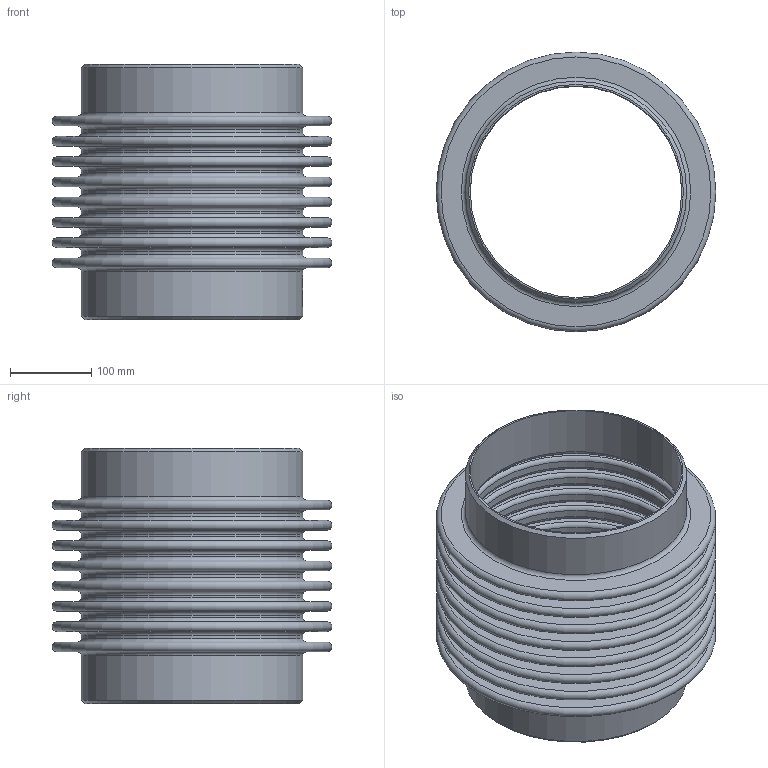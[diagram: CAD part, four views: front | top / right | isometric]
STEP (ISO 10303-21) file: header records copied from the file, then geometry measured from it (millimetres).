
FILE_DESCRIPTION(/* description */ ('D140-02128','CAx-IF Rec.Pracs.---Representation and Presentation of Product Manufacturing Information (PMI)---4.0---2014-10-13'),/* implementation_level */ '2;1');
FILE_NAME(/* name */ '',/* time_stamp */ '2026-04-13T21:43:59+03:00',/* author */ ('DN.RU'),/* organization */ ('DN.RU'),/* preprocessor_version */ 'ST-DEVELOPER v20',/* originating_system */ 'Autodesk Inventor 2025',/* authorisation */ '');
FILE_SCHEMA (('AP242_MANAGED_MODEL_BASED_3D_ENGINEERING_MIM_LF { 1 0 10303 442 1 1 4 }'));
Length unit declared in the file: millimetre
Products named in the file (1): CB-3131-W
Bounding box: 345 x 345 x 315 mm (x, y, z)
Volume: 2733083.1 mm3; surface area: 1558161.4 mm2
Topology: 1 solids, 1 shells, 313 faces, 777 edges, 518 vertices
Faces by surface type: plane 130, bspline 95, torus 48, cylinder 38, cone 2
Full cylindrical faces by diameter (mm): 261 x2, 267 x7, 273 x9
Entity records: 13683 total; most frequent: CARTESIAN_POINT 5916, ORIENTED_EDGE 1554, DIRECTION 1365, EDGE_CURVE 777, AXIS2_PLACEMENT_3D 530, VERTEX_POINT 518, STYLED_ITEM 383, EDGE_LOOP 367
